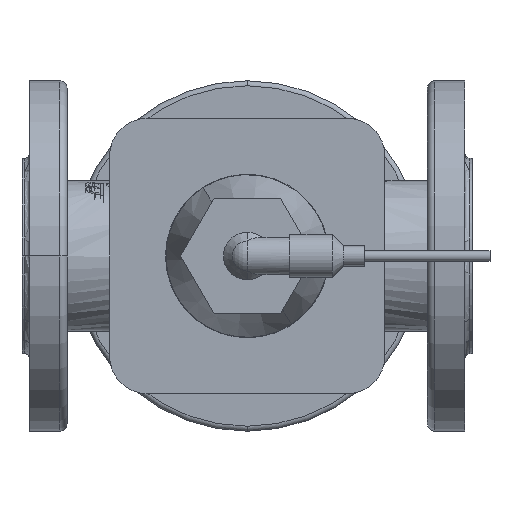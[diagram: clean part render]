
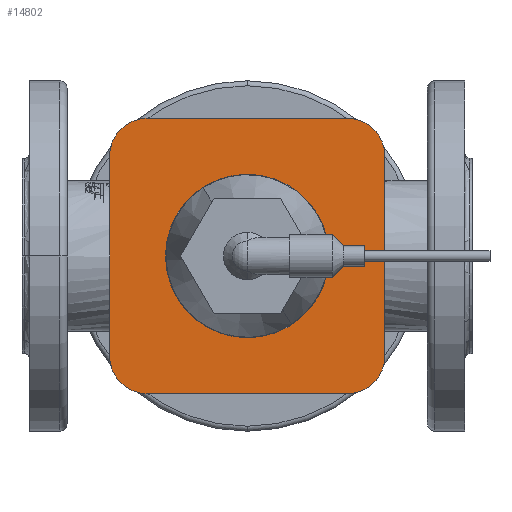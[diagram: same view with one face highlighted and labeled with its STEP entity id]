
A CAD part, front view. The second image highlights one B-rep face of the part: STEP entity #14802.
In plain terms, the highlighted planar face has unit normal (0, -1, 0).
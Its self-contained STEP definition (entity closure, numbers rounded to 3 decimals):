
#3640 = CARTESIAN_POINT ( 'NONE',  ( 0., 0., -32.65 ) ) ;
#3641 = DIRECTION ( 'NONE',  ( 0., 0., 1. ) ) ;
#3642 = DIRECTION ( 'NONE',  ( 0., 1., 0. ) ) ;
#3643 = CARTESIAN_POINT ( 'NONE',  ( 0., 0., 0. ) ) ;
#3644 = AXIS2_PLACEMENT_3D ( 'NONE', #3643, #3642, #3641 ) ;
#3645 = CIRCLE ( 'NONE', #3644, 32.65 ) ;
#3664 = CARTESIAN_POINT ( 'NONE',  ( 0., 0., 32.65 ) ) ;
#3671 = DIRECTION ( 'NONE',  ( 0., 0., 1. ) ) ;
#3672 = DIRECTION ( 'NONE',  ( 0., 1., 0. ) ) ;
#3673 = CARTESIAN_POINT ( 'NONE',  ( 0., 0., 0. ) ) ;
#3674 = AXIS2_PLACEMENT_3D ( 'NONE', #3673, #3672, #3671 ) ;
#3675 = CIRCLE ( 'NONE', #3674, 32.65 ) ;
#3703 = CARTESIAN_POINT ( 'NONE',  ( -40., 0., -55. ) ) ;
#3704 = DIRECTION ( 'NONE',  ( 0., 0., 1. ) ) ;
#3705 = VECTOR ( 'NONE', #3704, 1000. ) ;
#3706 = CARTESIAN_POINT ( 'NONE',  ( -55., 0., -40. ) ) ;
#3707 = LINE ( 'NONE', #3706, #3705 ) ;
#3708 = CARTESIAN_POINT ( 'NONE',  ( -40., 0., 55. ) ) ;
#3709 = DIRECTION ( 'NONE',  ( 0., 0., 1. ) ) ;
#3710 = DIRECTION ( 'NONE',  ( 0., 1., 0. ) ) ;
#3711 = CARTESIAN_POINT ( 'NONE',  ( 40., 0., 40. ) ) ;
#3712 = AXIS2_PLACEMENT_3D ( 'NONE', #3711, #3710, #3709 ) ;
#3713 = CIRCLE ( 'NONE', #3712, 15. ) ;
#3714 = DIRECTION ( 'NONE',  ( -1., 0., 0. ) ) ;
#3715 = VECTOR ( 'NONE', #3714, 1000. ) ;
#3716 = CARTESIAN_POINT ( 'NONE',  ( -40., 0., -55. ) ) ;
#3717 = LINE ( 'NONE', #3716, #3715 ) ;
#3732 = CARTESIAN_POINT ( 'NONE',  ( 55., 0., -40. ) ) ;
#3733 = DIRECTION ( 'NONE',  ( 0., 0., 1. ) ) ;
#3734 = DIRECTION ( 'NONE',  ( 0., 1., 0. ) ) ;
#3735 = CARTESIAN_POINT ( 'NONE',  ( 40., 0., -40. ) ) ;
#3736 = AXIS2_PLACEMENT_3D ( 'NONE', #3735, #3734, #3733 ) ;
#3737 = CIRCLE ( 'NONE', #3736, 15. ) ;
#3738 = CARTESIAN_POINT ( 'NONE',  ( 55., 0., 40. ) ) ;
#3739 = DIRECTION ( 'NONE',  ( 0., 0., -1. ) ) ;
#3740 = VECTOR ( 'NONE', #3739, 1000. ) ;
#3741 = CARTESIAN_POINT ( 'NONE',  ( 55., 0., -40. ) ) ;
#3747 = LINE ( 'NONE', #3741, #3740 ) ;
#3748 = CARTESIAN_POINT ( 'NONE',  ( -55., 0., -40. ) ) ;
#3749 = DIRECTION ( 'NONE',  ( 0., 0., 1. ) ) ;
#3750 = DIRECTION ( 'NONE',  ( 0., 1., 0. ) ) ;
#3751 = CARTESIAN_POINT ( 'NONE',  ( -40., 0., 40. ) ) ;
#3752 = AXIS2_PLACEMENT_3D ( 'NONE', #3751, #3750, #3749 ) ;
#3753 = CIRCLE ( 'NONE', #3752, 15. ) ;
#3754 = DIRECTION ( 'NONE',  ( 0., 0., 1. ) ) ;
#3755 = DIRECTION ( 'NONE',  ( 0., 1., 0. ) ) ;
#3756 = CARTESIAN_POINT ( 'NONE',  ( -40., 0., -40. ) ) ;
#3757 = AXIS2_PLACEMENT_3D ( 'NONE', #3756, #3755, #3754 ) ;
#3758 = CIRCLE ( 'NONE', #3757, 15. ) ;
#3759 = CARTESIAN_POINT ( 'NONE',  ( -55., 0., 40. ) ) ;
#3760 = CARTESIAN_POINT ( 'NONE',  ( 40., 0., 55. ) ) ;
#3761 = DIRECTION ( 'NONE',  ( 1., 0., 0. ) ) ;
#3762 = VECTOR ( 'NONE', #3761, 1000. ) ;
#3763 = CARTESIAN_POINT ( 'NONE',  ( -40., 0., 55. ) ) ;
#3764 = LINE ( 'NONE', #3763, #3762 ) ;
#3780 = DIRECTION ( 'NONE',  ( 0., 0., 1. ) ) ;
#3781 = DIRECTION ( 'NONE',  ( 0., 1., 0. ) ) ;
#3782 = CARTESIAN_POINT ( 'NONE',  ( 40., 0., -40. ) ) ;
#3783 = AXIS2_PLACEMENT_3D ( 'NONE', #3782, #3781, #3780 ) ;
#3784 = PLANE ( 'NONE',  #3783 ) ;
#3785 = FACE_BOUND ( 'NONE', #14840, .T. ) ;
#3786 = FACE_OUTER_BOUND ( 'NONE', #14803, .T. ) ;
#3797 = CARTESIAN_POINT ( 'NONE',  ( 40., 0., -55. ) ) ;
#14719 = ORIENTED_EDGE ( 'NONE', *, *, #14796, .F. ) ;
#14728 = VERTEX_POINT ( 'NONE', #3664 ) ;
#14735 = EDGE_CURVE ( 'NONE', #14736, #14728, #3645, .T. ) ;
#14736 = VERTEX_POINT ( 'NONE', #3640 ) ;
#14750 = ORIENTED_EDGE ( 'NONE', *, *, #14772, .F. ) ;
#14762 = ORIENTED_EDGE ( 'NONE', *, *, #14735, .T. ) ;
#14763 = EDGE_CURVE ( 'NONE', #14728, #14736, #3675, .T. ) ;
#14772 = EDGE_CURVE ( 'NONE', #14798, #14780, #3717, .T. ) ;
#14774 = EDGE_CURVE ( 'NONE', #14782, #14795, #3713, .T. ) ;
#14775 = ORIENTED_EDGE ( 'NONE', *, *, #14774, .F. ) ;
#14776 = VERTEX_POINT ( 'NONE', #3708 ) ;
#14777 = ORIENTED_EDGE ( 'NONE', *, *, #14778, .F. ) ;
#14778 = EDGE_CURVE ( 'NONE', #14787, #14784, #3707, .T. ) ;
#14779 = ORIENTED_EDGE ( 'NONE', *, *, #14785, .F. ) ;
#14780 = VERTEX_POINT ( 'NONE', #3703 ) ;
#14781 = EDGE_CURVE ( 'NONE', #14776, #14782, #3764, .T. ) ;
#14782 = VERTEX_POINT ( 'NONE', #3760 ) ;
#14783 = ORIENTED_EDGE ( 'NONE', *, *, #14786, .F. ) ;
#14784 = VERTEX_POINT ( 'NONE', #3759 ) ;
#14785 = EDGE_CURVE ( 'NONE', #14780, #14787, #3758, .T. ) ;
#14786 = EDGE_CURVE ( 'NONE', #14784, #14776, #3753, .T. ) ;
#14787 = VERTEX_POINT ( 'NONE', #3748 ) ;
#14788 = ORIENTED_EDGE ( 'NONE', *, *, #14781, .F. ) ;
#14793 = ORIENTED_EDGE ( 'NONE', *, *, #14794, .F. ) ;
#14794 = EDGE_CURVE ( 'NONE', #14795, #14797, #3747, .T. ) ;
#14795 = VERTEX_POINT ( 'NONE', #3738 ) ;
#14796 = EDGE_CURVE ( 'NONE', #14797, #14798, #3737, .T. ) ;
#14797 = VERTEX_POINT ( 'NONE', #3732 ) ;
#14798 = VERTEX_POINT ( 'NONE', #3797 ) ;
#14802 = ADVANCED_FACE ( 'NONE', ( #3786, #3785 ), #3784, .F. ) ;
#14803 = EDGE_LOOP ( 'NONE', ( #14719, #14793, #14775, #14788, #14783, #14777, #14779, #14750 ) ) ;
#14838 = ORIENTED_EDGE ( 'NONE', *, *, #14763, .T. ) ;
#14840 = EDGE_LOOP ( 'NONE', ( #14762, #14838 ) ) ;
